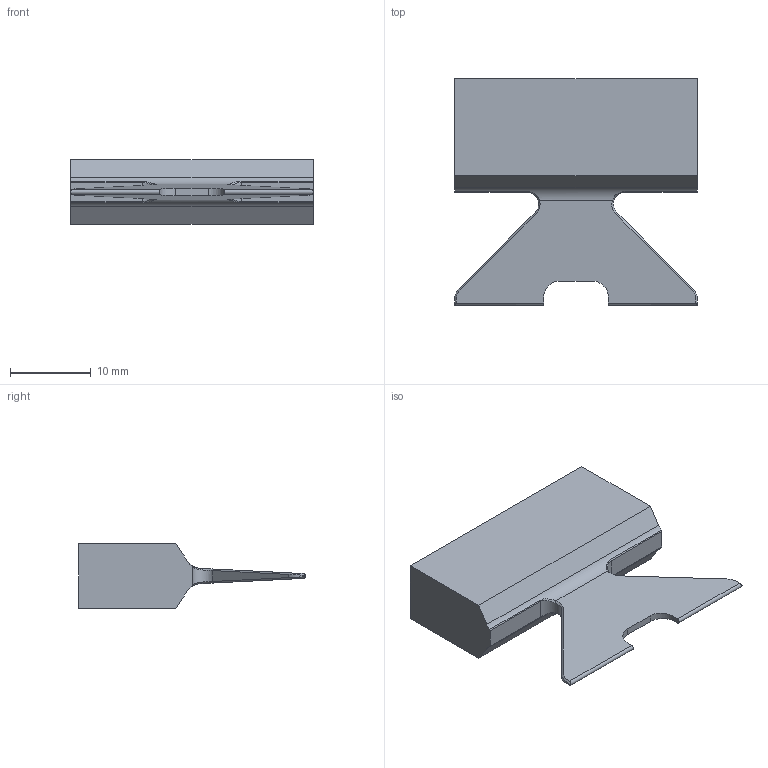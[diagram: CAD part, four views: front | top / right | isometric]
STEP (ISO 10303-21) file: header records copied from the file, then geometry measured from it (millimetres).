
FILE_DESCRIPTION (( 'STEP AP203' ), '1' );
FILE_NAME ('FB-011-03BUB.STEP', '2025-03-24T03:04:24', ( 'Windows 蚚誧' ), ( 'Organization' ), 'SwSTEP 2.0', 'SolidWorks 2020', '' );
FILE_SCHEMA (( 'CONFIG_CONTROL_DESIGN' ));
Length unit declared in the file: millimetre
Products named in the file (1): FB-011-03BUB
Bounding box: 30 x 28 x 8 mm (x, y, z)
Volume: 3218.2 mm3; surface area: 2284.6 mm2
Topology: 1 solids, 1 shells, 69 faces, 173 edges, 102 vertices
Faces by surface type: plane 30, cylinder 19, bspline 12, cone 8
Entity records: 3206 total; most frequent: CARTESIAN_POINT 1667, ORIENTED_EDGE 330, DIRECTION 251, EDGE_CURVE 165, VERTEX_POINT 102, LINE 87, VECTOR 87, AXIS2_PLACEMENT_3D 82
